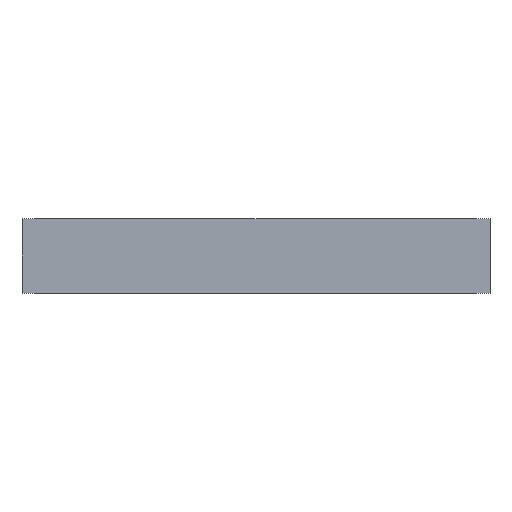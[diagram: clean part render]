
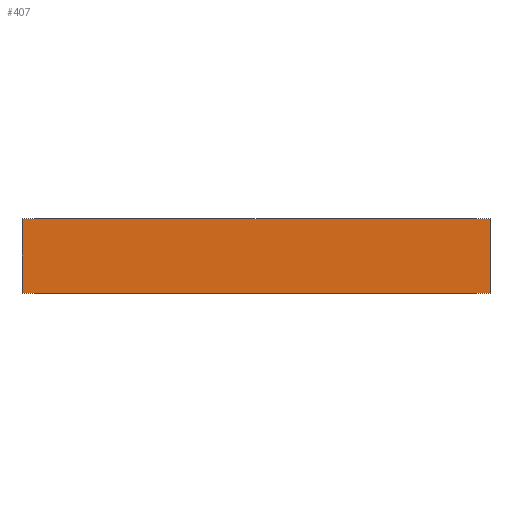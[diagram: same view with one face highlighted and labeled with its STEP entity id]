
A CAD part, front view. The second image highlights one B-rep face of the part: STEP entity #407.
In plain terms, the highlighted planar face has unit normal (0, -1, 0).
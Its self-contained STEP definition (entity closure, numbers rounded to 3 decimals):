
#7 = EDGE_CURVE ( 'NONE', #599, #684, #260, .T. ) ;
#43 = EDGE_CURVE ( 'NONE', #599, #603, #205, .T. ) ;
#58 = AXIS2_PLACEMENT_3D ( 'NONE', #492, #482, #481 ) ;
#64 = EDGE_CURVE ( 'NONE', #603, #689, #175, .T. ) ;
#82 = EDGE_CURVE ( 'NONE', #684, #689, #113, .T. ) ;
#111 = VECTOR ( 'NONE', #564, 1000. ) ;
#113 = LINE ( 'NONE', #565, #111 ) ;
#138 = FACE_OUTER_BOUND ( 'NONE', #276, .T. ) ;
#172 = VECTOR ( 'NONE', #598, 1000. ) ;
#175 = LINE ( 'NONE', #600, #172 ) ;
#204 = VECTOR ( 'NONE', #639, 1000. ) ;
#205 = LINE ( 'NONE', #640, #204 ) ;
#255 = VECTOR ( 'NONE', #498, 1000. ) ;
#260 = LINE ( 'NONE', #534, #255 ) ;
#276 = EDGE_LOOP ( 'NONE', ( #379, #380, #381, #382 ) ) ;
#379 = ORIENTED_EDGE ( 'NONE', *, *, #82, .T. ) ;
#380 = ORIENTED_EDGE ( 'NONE', *, *, #64, .F. ) ;
#381 = ORIENTED_EDGE ( 'NONE', *, *, #43, .F. ) ;
#382 = ORIENTED_EDGE ( 'NONE', *, *, #7, .T. ) ;
#407 = ADVANCED_FACE ( 'NONE', ( #138 ), #496, .F. ) ;
#448 = CARTESIAN_POINT ( 'NONE',  ( 204., 0., 0. ) ) ;
#449 = CARTESIAN_POINT ( 'NONE',  ( -204., 0., 0. ) ) ;
#475 = CARTESIAN_POINT ( 'NONE',  ( 204., 0., 65. ) ) ;
#476 = CARTESIAN_POINT ( 'NONE',  ( -204., 0., 65. ) ) ;
#481 = DIRECTION ( 'NONE',  ( -1., 0., 0. ) ) ;
#482 = DIRECTION ( 'NONE',  ( 0., 1., 0. ) ) ;
#492 = CARTESIAN_POINT ( 'NONE',  ( -204., 0., 65. ) ) ;
#496 = PLANE ( 'NONE',  #58 ) ;
#498 = DIRECTION ( 'NONE',  ( 0., 0., -1. ) ) ;
#534 = CARTESIAN_POINT ( 'NONE',  ( -204., 0., 65. ) ) ;
#564 = DIRECTION ( 'NONE',  ( 1., 0., 0. ) ) ;
#565 = CARTESIAN_POINT ( 'NONE',  ( -204., 0., 0. ) ) ;
#598 = DIRECTION ( 'NONE',  ( 0., 0., -1. ) ) ;
#599 = VERTEX_POINT ( 'NONE', #476 ) ;
#600 = CARTESIAN_POINT ( 'NONE',  ( 204., 0., 65. ) ) ;
#603 = VERTEX_POINT ( 'NONE', #475 ) ;
#639 = DIRECTION ( 'NONE',  ( 1., 0., 0. ) ) ;
#640 = CARTESIAN_POINT ( 'NONE',  ( -204., 0., 65. ) ) ;
#684 = VERTEX_POINT ( 'NONE', #449 ) ;
#689 = VERTEX_POINT ( 'NONE', #448 ) ;
